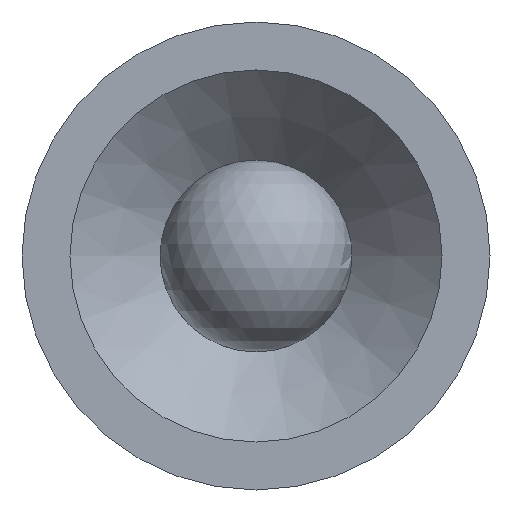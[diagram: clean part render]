
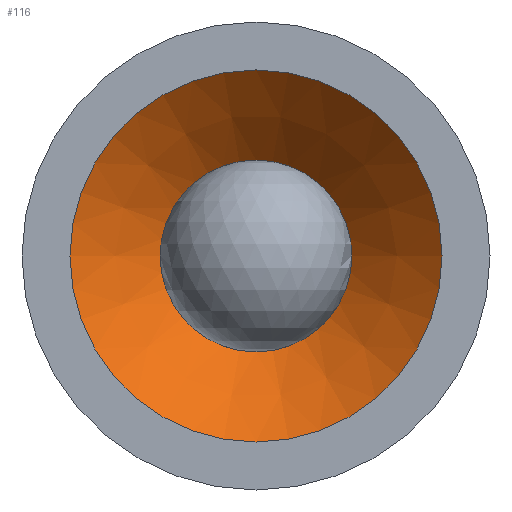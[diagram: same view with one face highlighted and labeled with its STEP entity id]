
A CAD part, left-side view. The second image highlights one B-rep face of the part: STEP entity #116.
In plain terms, the highlighted conical face has half-angle 45 degrees and reference radius 0.597 mm.
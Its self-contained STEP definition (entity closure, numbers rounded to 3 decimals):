
#17=CONICAL_SURFACE($,#132,0.597,45.);
#19=FACE_BOUND($,#47,.T.);
#35=FACE_OUTER_BOUND($,#46,.T.);
#46=EDGE_LOOP($,(#96));
#47=EDGE_LOOP($,(#97));
#64=CIRCLE($,#131,0.406);
#65=CIRCLE($,#133,0.787);
#74=VERTEX_POINT($,#198);
#75=VERTEX_POINT($,#201);
#84=EDGE_CURVE($,#74,#74,#64,.T.);
#85=EDGE_CURVE($,#75,#75,#65,.T.);
#96=ORIENTED_EDGE($,*,*,#85,.F.);
#97=ORIENTED_EDGE($,*,*,#84,.T.);
#116=ADVANCED_FACE($,(#35,#19),#17,.F.);
#131=AXIS2_PLACEMENT_3D($,#199,#157,#158);
#132=AXIS2_PLACEMENT_3D($,#200,#159,#160);
#133=AXIS2_PLACEMENT_3D($,#202,#161,#162);
#157=DIRECTION('center_axis',(1.,0.,0.));
#158=DIRECTION('ref_axis',(0.,1.,0.));
#159=DIRECTION('center_axis',(-1.,0.,0.));
#160=DIRECTION('ref_axis',(0.,1.,0.));
#161=DIRECTION('center_axis',(1.,0.,0.));
#162=DIRECTION('ref_axis',(0.,1.,0.));
#198=CARTESIAN_POINT('',(3.937,0.406,0.));
#199=CARTESIAN_POINT('Origin',(3.937,0.,0.));
#200=CARTESIAN_POINT('Origin',(3.747,0.,0.));
#201=CARTESIAN_POINT('',(3.556,0.787,0.));
#202=CARTESIAN_POINT('Origin',(3.556,0.,0.));
